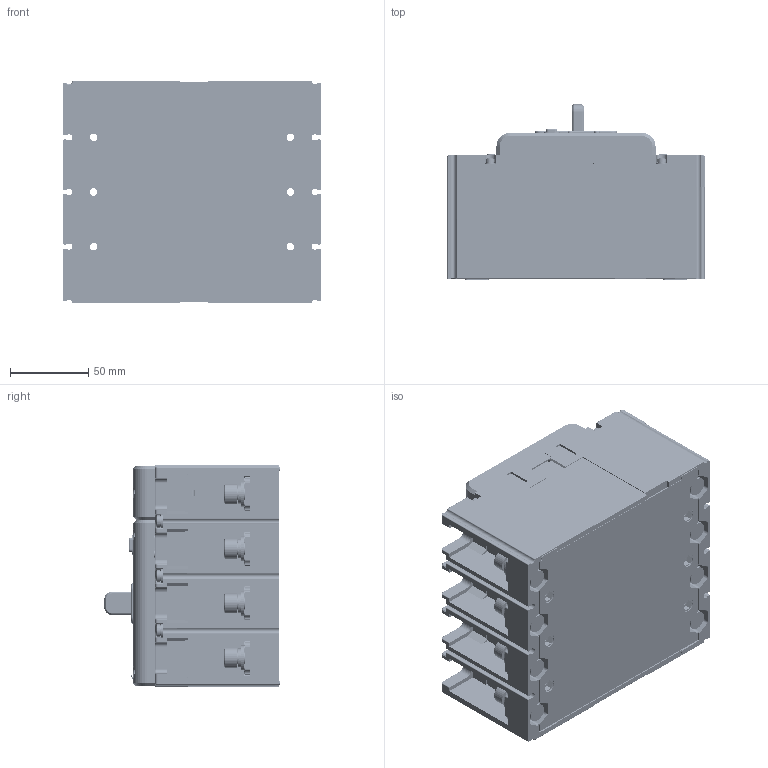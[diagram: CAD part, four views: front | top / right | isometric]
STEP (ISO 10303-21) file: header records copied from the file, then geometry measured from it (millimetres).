
FILE_DESCRIPTION((''),'2;1');
FILE_NAME('2258013800_ASM','2017-11-08T',('yan.shen'),(''),'PRO/ENGINEER BY PARAMETRIC TECHNOLOGY CORPORATION, 2015440','PRO/ENGINEER BY PARAMETRIC TECHNOLOGY CORPORATION, 2015440','');
FILE_SCHEMA(('CONFIG_CONTROL_DESIGN'));
Products named in the file (61): JZ-5DLX_024_269; GB_T809-M3X12; GB_T809-M4X12; 5024026900_ASM; 8510024900; 5420038400_ASM; 5420038500_ASM; 5551086700_ASM; 8510025000; 5420038600_ASM; 5420038700_ASM; 5551086800_ASM; 8510025100; 5420038800_ASM; 5420038900_ASM; 5551086900_ASM; 8585069400; 5551087000_ASM; 5551087100_ASM; 5585015200_ASM; 5295004000_ASM; 8551033100; 5551076600_ASM; 6760012000_ASM; 8751002100; 8300048900; 8750029700; MG-5DLX_315_442; GB_T809-M3X8; 5315044200_ASM; 8315058000; 8282018100; 8253003500; 7010100305R01_GB_T823_M3X10; 7090300201_GB_T93_3; GB_T97_4_3; 5850007700_ASM; 8253063200; 8315058500; 8322007100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
Assembly tree (118 placements, depth 8):
  2258013800_ASM
    6760012000_ASM
      5024026900_ASM
        JZ-5DLX_024_269
        GB_T809-M3X12  x4
        GB_T809-M4X12  x6
      5295004000_ASM
        5551087100_ASM
          5551086700_ASM
            5420038500_ASM
              5420038400_ASM
                8510024900
          5551086800_ASM
            5420038700_ASM
              5420038600_ASM
                8510025000
          5551086900_ASM
            5420038900_ASM
              5420038800_ASM
                8510025100
          5551087000_ASM
            8585069400
        5585015200_ASM
          8585069400
      5551076600_ASM  x4
        8551033100
    8751002100  x4
    8300048900
    8750029700  x4
    53150443P01_ASM
      5315044200_ASM
        MG-5DLX_315_442
        GB_T809-M3X8  x6
      8315058000
      8282018100
      8253003500
      5850007700_ASM  x6
        7010100305R01_GB_T823_M3X10
        7090300201_GB_T93_3
        GB_T97_4_3
      8253063200
      8315058500
      8322007100
      8322007000
      8300048900
    GB_T9074_4-M3X30  x4
    7030100437_GB_T9074_4_M4X30  x6
    8742102800
    5253022400_ASM
      8253057300
      8865077900_AF0
      8865078000_AF0
    5850004100_AF8_ASM
      GB_T70_1-M8X20
      7090200704_GB_T97_1_8
      7090370701K_GB_T93_8
    5850004100_AF9_ASM
      GB_T70_1-M8X20
      7090200704_GB_T97_1_8
      7090370701K_GB_T93_8
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Bounding box: 165 x 112.41 x 142 mm (x, y, z)
Volume: 715193.3 mm3; surface area: 484115 mm2
Topology: 110 solids, 168 shells, 7545 faces, 19608 edges, 12552 vertices
Faces by surface type: plane 3960, cylinder 2568, cone 296, torus 288, extrusion 188, bspline 138, sphere 107
Entity records: 207103 total; most frequent: CARTESIAN_POINT 51875, ORIENTED_EDGE 32358, DIRECTION 32036, EDGE_CURVE 16213, VECTOR 10814, LINE 10626, AXIS2_PLACEMENT_3D 10611, VERTEX_POINT 10401
